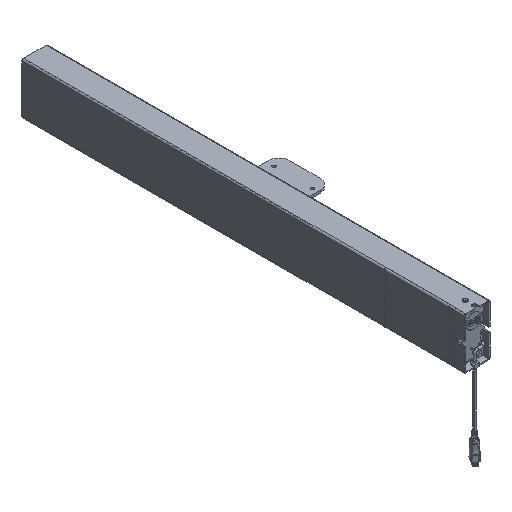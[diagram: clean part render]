
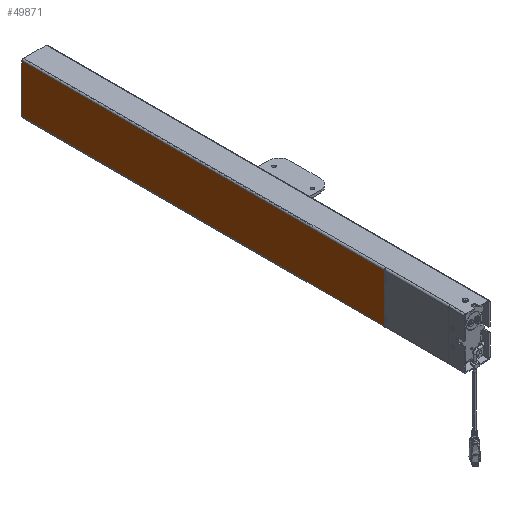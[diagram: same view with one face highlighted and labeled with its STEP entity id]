
A CAD part, isometric view. The second image highlights one B-rep face of the part: STEP entity #49871.
In plain terms, the highlighted planar face has unit normal (-1, 0, 0).
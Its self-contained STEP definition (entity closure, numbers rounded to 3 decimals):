
#903 = FACE_OUTER_BOUND ( 'NONE', #38583, .T. ) ;
#1454 = LINE ( 'NONE', #36926, #10371 ) ;
#2864 = AXIS2_PLACEMENT_3D ( 'NONE', #61375, #35937, #41065 ) ;
#6521 = CARTESIAN_POINT ( 'NONE',  ( -6.662, -28.605, 3.346 ) ) ;
#9729 = CARTESIAN_POINT ( 'NONE',  ( -6.662, 5.253, 7.047 ) ) ;
#10146 = DIRECTION ( 'NONE',  ( 0., 0., -1. ) ) ;
#10371 = VECTOR ( 'NONE', #50570, 39.37 ) ;
#11392 = VECTOR ( 'NONE', #49044, 39.37 ) ;
#12641 = VERTEX_POINT ( 'NONE', #26971 ) ;
#14524 = LINE ( 'NONE', #6521, #47810 ) ;
#18774 = VERTEX_POINT ( 'NONE', #40758 ) ;
#20516 = CARTESIAN_POINT ( 'NONE',  ( -6.662, -22.502, 8.612 ) ) ;
#21030 = ORIENTED_EDGE ( 'NONE', *, *, #38159, .F. ) ;
#22799 = ORIENTED_EDGE ( 'NONE', *, *, #27858, .T. ) ;
#24033 = LINE ( 'NONE', #20516, #11392 ) ;
#26685 = EDGE_CURVE ( 'NONE', #18774, #28285, #1454, .T. ) ;
#26925 = CARTESIAN_POINT ( 'NONE',  ( -6.662, 5.253, 7.047 ) ) ;
#26971 = CARTESIAN_POINT ( 'NONE',  ( -6.662, 5.253, 3.346 ) ) ;
#27858 = EDGE_CURVE ( 'NONE', #28285, #12641, #45090, .T. ) ;
#28285 = VERTEX_POINT ( 'NONE', #26925 ) ;
#35937 = DIRECTION ( 'NONE',  ( 1., 0., 0. ) ) ;
#36926 = CARTESIAN_POINT ( 'NONE',  ( -6.662, -28.605, 7.047 ) ) ;
#38159 = EDGE_CURVE ( 'NONE', #47480, #12641, #14524, .T. ) ;
#38583 = EDGE_LOOP ( 'NONE', ( #21030, #60458, #44234, #22799 ) ) ;
#39693 = DIRECTION ( 'NONE',  ( 0., 1., 0. ) ) ;
#40758 = CARTESIAN_POINT ( 'NONE',  ( -6.662, -22.502, 7.047 ) ) ;
#41065 = DIRECTION ( 'NONE',  ( 0., 0., 1. ) ) ;
#41396 = PLANE ( 'NONE',  #2864 ) ;
#44234 = ORIENTED_EDGE ( 'NONE', *, *, #26685, .T. ) ;
#45090 = LINE ( 'NONE', #9729, #51696 ) ;
#47480 = VERTEX_POINT ( 'NONE', #55410 ) ;
#47810 = VECTOR ( 'NONE', #39693, 39.37 ) ;
#49044 = DIRECTION ( 'NONE',  ( 0., 0., -1. ) ) ;
#49871 = ADVANCED_FACE ( 'NONE', ( #903 ), #41396, .F. ) ;
#50570 = DIRECTION ( 'NONE',  ( 0., 1., 0. ) ) ;
#51696 = VECTOR ( 'NONE', #10146, 39.37 ) ;
#55410 = CARTESIAN_POINT ( 'NONE',  ( -6.662, -22.502, 3.346 ) ) ;
#58332 = EDGE_CURVE ( 'NONE', #18774, #47480, #24033, .T. ) ;
#60458 = ORIENTED_EDGE ( 'NONE', *, *, #58332, .F. ) ;
#61375 = CARTESIAN_POINT ( 'NONE',  ( -6.662, -28.605, 7.047 ) ) ;
